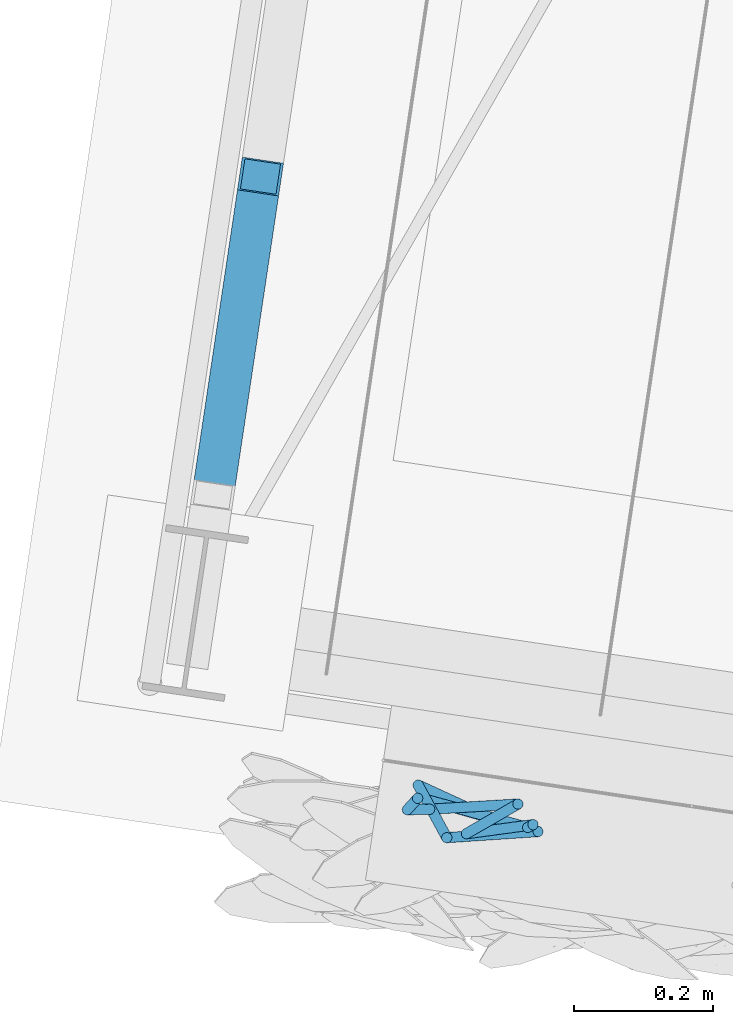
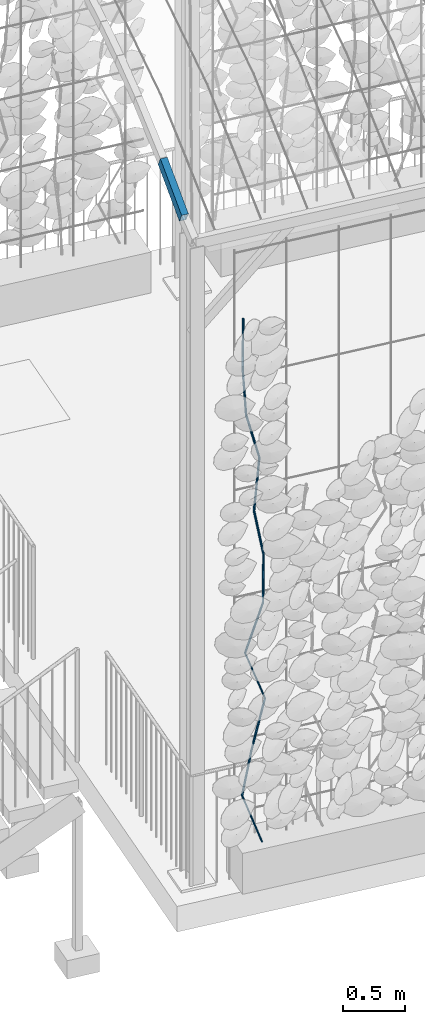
# One storey, part 105 of 142: 12 members, 2 elements without a shape of their own.
"""IFC4 building model written with IfcOpenShell, lengths in metres."""

from ifc_helpers import new_model, si_unit, direction, frame, origin_with_axes, place, context, subcontext, project, spatial, hollow_rectangle, circle, extrude, material, material_profile, profile_set, profile_usage, type_object, element, aggregate, save


model = new_model("IFC4")

# Units and contexts
model_context = context("Model", 3, precision=1e-05, world=origin_with_axes(), true_north=direction((0.0, 1.0)))
body_context = subcontext(model_context, "Body", "Model", "MODEL_VIEW")
ifc_project = project(units=[si_unit("AREAUNIT", "SQUARE_METRE"), si_unit("VOLUMEUNIT", "CUBIC_METRE"), si_unit("LENGTHUNIT", "METRE")], contexts=[model_context])

# Site, building, storey
site_placement = place(None, origin_with_axes())
site = spatial("IfcSite", under=ifc_project, at=site_placement, Name="Lares · Rua das Mercês · artigo 4771")
building_placement = place(site_placement, frame((15.0, 9.7, 14.65), z_axis=(0.0, 0.0, 1.0), x_axis=(0.989015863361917, -0.147809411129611, 0.0)))
building = spatial("IfcBuilding", under=site, at=building_placement, Name="Casa Sobreposta")
storey_placement = place(building_placement, origin_with_axes())
storey = spatial("IfcBuildingStorey", under=building, at=storey_placement, Name="00 · Habitação e estacionamento", Elevation=14.65)

# Assembly, member
assembly_1_placement = place(storey_placement, origin_with_axes())
assembly_1 = element("IfcElementAssembly", 1, at=assembly_1_placement, inside=storey, Name="Pérgola · prolongamento da estufa 6 m", ObjectType="PERGOLA_GREENHOUSE_EXTENSION", PredefinedType="USERDEFINED")
ifc_material_1 = material(Name="Aço pintado / Stahl lackiert", Category="steel")
ifc_material_profile_1 = material_profile(ifc_material_1, hollow_rectangle(XDim=0.06, YDim=0.1, WallThickness=0.004))
ifc_profile_set_1 = profile_set([ifc_material_profile_1], Name="RHS100x60x4")
ifc_profile_usage_1 = profile_usage(ifc_profile_set_1)
member_type_1 = type_object("IfcMemberType", Name="RHS100x60x4 / steel", PredefinedType="NOTDEFINED", material=ifc_profile_set_1)
member_1_placement = place(assembly_1_placement, frame((-6.0, -1.26765509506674, 6.32392631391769), z_axis=(0.0, 0.878851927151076, 0.477094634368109), x_axis=(1.0, 0.0, 0.0)))
member_1 = element("IfcMember", 2, at=member_1_placement, type_object=member_type_1, material=ifc_profile_usage_1, Name="Pérgola · arco contínuo com a estufa", context=body_context, shape_type="SweptSolid", body=[
    extrude(hollow_rectangle(XDim=0.06, YDim=0.1, WallThickness=0.004), origin_with_axes(), (0.0, 0.0, 1.0), 0.52863528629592),
])
aggregate(assembly_1, [member_1])

# Assembly, members
assembly_2_placement = place(storey_placement, origin_with_axes())
assembly_2 = element("IfcElementAssembly", 3, at=assembly_2_placement, inside=storey, Name="Fachada sul e pátio · estrutura e trepadeiras", ObjectType="LIVING_SHADE_TRELLIS", PredefinedType="USERDEFINED")
ifc_material_2 = material(Name="Ramos de trepadeiras", Category="wood")
ifc_material_profile_2 = material_profile(ifc_material_2, circle(Radius=0.0075))
ifc_profile_set_2 = profile_set([ifc_material_profile_2], Name="D0.015")
ifc_profile_usage_2 = profile_usage(ifc_profile_set_2)
member_type_2 = type_object("IfcMemberType", Name="D0.015 / vine_wood", PredefinedType="NOTDEFINED", material=ifc_profile_set_2)
member_2_placement = place(assembly_2_placement, frame((-5.48911948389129, -1.68313375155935, 0.35), z_axis=(-0.315042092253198, 0.0911891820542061, 0.944686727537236), x_axis=(0.278037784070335, 0.960570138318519, 0.0)))
member_2 = element("IfcMember", 4, at=member_2_placement, type_object=member_type_2, material=ifc_profile_usage_2, Name="Trepadeiras · ramo", context=body_context, shape_type="SweptSolid", body=[
    extrude(circle(Radius=0.0075), origin_with_axes(), (0.0, 0.0, 1.0), 0.495129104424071),
])
ifc_profile_usage_3 = profile_usage(ifc_profile_set_2)
member_3_placement = place(assembly_2_placement, frame((-5.64510599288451, -1.63798333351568, 0.817741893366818), z_axis=(0.109502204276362, -0.145033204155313, 0.983348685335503), x_axis=(-0.798074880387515, -0.602558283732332, 0.0)))
member_3 = element("IfcMember", 5, at=member_3_placement, type_object=member_type_2, material=ifc_profile_usage_3, Name="Trepadeiras · ramo", context=body_context, shape_type="SweptSolid", body=[
    extrude(circle(Radius=0.0075), origin_with_axes(), (0.0, 0.0, 1.0), 0.475662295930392),
])
ifc_profile_usage_4 = profile_usage(ifc_profile_set_2)
member_4_placement = place(assembly_2_placement, frame((-5.59301992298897, -1.70697016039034, 1.28548378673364), z_axis=(0.265195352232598, 0.0579298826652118, 0.962452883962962), x_axis=(0.213409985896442, -0.976962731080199, 0.0)))
member_4 = element("IfcMember", 6, at=member_4_placement, type_object=member_type_2, material=ifc_profile_usage_4, Name="Trepadeiras · ramo", context=body_context, shape_type="SweptSolid", body=[
    extrude(circle(Radius=0.0075), origin_with_axes(), (0.0, 0.0, 1.0), 0.485989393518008),
])
ifc_profile_usage_5 = profile_usage(ifc_profile_set_2)
member_5_placement = place(assembly_2_placement, frame((-5.46413779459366, -1.67881685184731, 1.75322568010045), z_axis=(-0.32848864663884, 0.0430845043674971, 0.943524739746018), x_axis=(0.130045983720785, 0.991507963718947, 0.0)))
member_5 = element("IfcMember", 7, at=member_5_placement, type_object=member_type_2, material=ifc_profile_usage_5, Name="Trepadeiras · ramo", context=body_context, shape_type="SweptSolid", body=[
    extrude(circle(Radius=0.0075), origin_with_axes(), (0.0, 0.0, 1.0), 0.495738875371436),
])
ifc_profile_usage_6 = profile_usage(ifc_profile_set_2)
member_6_placement = place(assembly_2_placement, frame((-5.62698238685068, -1.65745818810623, 2.22096757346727), z_axis=(0.300174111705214, -0.0360648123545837, 0.953202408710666), x_axis=(-0.119288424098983, -0.992859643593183, 0.0)))
member_6 = element("IfcMember", 8, at=member_6_placement, type_object=member_type_2, material=ifc_profile_usage_6, Name="Trepadeiras · ramo", context=body_context, shape_type="SweptSolid", body=[
    extrude(circle(Radius=0.0075), origin_with_axes(), (0.0, 0.0, 1.0), 0.490705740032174),
])
ifc_profile_usage_7 = profile_usage(ifc_profile_set_2)
member_7_placement = place(assembly_2_placement, frame((-5.47968522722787, -1.6751553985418, 2.68870946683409), z_axis=(0.0147543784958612, 0.0109734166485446, 0.999830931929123), x_axis=(0.999891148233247, -0.000161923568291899, -0.0147534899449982)))
member_7 = element("IfcMember", 9, at=member_7_placement, type_object=member_type_2, material=ifc_profile_usage_7, Name="Trepadeiras · ramo", context=body_context, shape_type="SweptSolid", body=[
    extrude(circle(Radius=0.0075), origin_with_axes(), (0.0, 0.0, 1.0), 0.467820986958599),
])
ifc_profile_usage_8 = profile_usage(ifc_profile_set_2)
member_8_placement = place(assembly_2_placement, frame((-5.47278281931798, -1.67002180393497, 3.15645136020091), z_axis=(-0.19496267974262, -0.0566235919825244, 0.979174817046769), x_axis=(-0.278907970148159, 0.960317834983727, 0.0)))
member_8 = element("IfcMember", 10, at=member_8_placement, type_object=member_type_2, material=ifc_profile_usage_8, Name="Trepadeiras · ramo", context=body_context, shape_type="SweptSolid", body=[
    extrude(circle(Radius=0.0075), origin_with_axes(), (0.0, 0.0, 1.0), 0.477689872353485),
])
ifc_profile_usage_9 = profile_usage(ifc_profile_set_2)
member_9_placement = place(assembly_2_placement, frame((-5.56591451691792, -1.6970703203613, 3.62419325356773), z_axis=(0.141678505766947, 0.112006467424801, 0.983555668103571), x_axis=(0.620172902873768, -0.784465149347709, 0.0)))
member_9 = element("IfcMember", 11, at=member_9_placement, type_object=member_type_2, material=ifc_profile_usage_9, Name="Trepadeiras · ramo", context=body_context, shape_type="SweptSolid", body=[
    extrude(circle(Radius=0.0075), origin_with_axes(), (0.0, 0.0, 1.0), 0.475562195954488),
])
ifc_profile_usage_10 = profile_usage(ifc_profile_set_2)
member_10_placement = place(assembly_2_placement, frame((-5.49853757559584, -1.64380427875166, 4.09193514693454), z_axis=(-0.257789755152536, -0.0541962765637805, 0.964679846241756), x_axis=(-0.205736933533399, 0.97860733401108, 0.0)))
member_10 = element("IfcMember", 12, at=member_10_placement, type_object=member_type_2, material=ifc_profile_usage_10, Name="Trepadeiras · ramo", context=body_context, shape_type="SweptSolid", body=[
    extrude(circle(Radius=0.0075), origin_with_axes(), (0.0, 0.0, 1.0), 0.484867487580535),
])
ifc_profile_usage_11 = profile_usage(ifc_profile_set_2)
member_11_placement = place(assembly_2_placement, frame((-5.62353144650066, -1.67008229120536, 4.55967704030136), z_axis=(-0.0676309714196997, -0.0113503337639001, 0.997645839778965), x_axis=(-0.165512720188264, 0.986207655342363, 0.0)))
member_11 = element("IfcMember", 13, at=member_11_placement, type_object=member_type_2, material=ifc_profile_usage_11, Name="Trepadeiras · ramo", context=body_context, shape_type="SweptSolid", body=[
    extrude(circle(Radius=0.0075), origin_with_axes(), (0.0, 0.0, 1.0), 0.468845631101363),
])
ifc_profile_usage_12 = profile_usage(ifc_profile_set_2)
member_12_placement = place(assembly_2_placement, frame((-5.65523993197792, -1.67540384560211, 5.02741893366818), z_axis=(0.0261045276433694, 0.0393084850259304, 0.99888607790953), x_axis=(0.833038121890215, -0.55321558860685, 0.0)))
member_12 = element("IfcMember", 14, at=member_12_placement, type_object=member_type_2, material=ifc_profile_usage_12, Name="Trepadeiras · ramo", context=body_context, shape_type="SweptSolid", body=[
    extrude(circle(Radius=0.0075), origin_with_axes(), (0.0, 0.0, 1.0), 0.468263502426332),
])
aggregate(assembly_2, [member_2, member_3, member_4, member_5, member_6, member_7, member_8, member_9, member_10, member_11, member_12])

save(model, "model.ifc")
